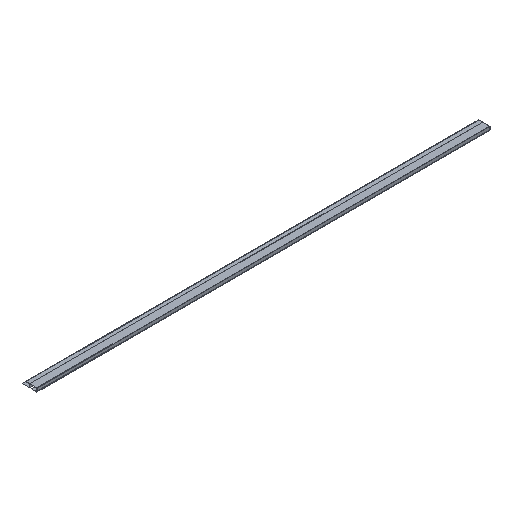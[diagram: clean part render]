
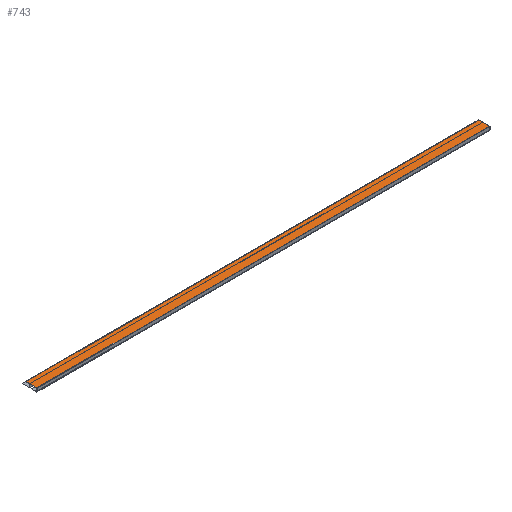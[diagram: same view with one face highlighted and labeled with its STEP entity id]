
A CAD part, isometric view. The second image highlights one B-rep face of the part: STEP entity #743.
In plain terms, the highlighted planar face has unit normal (0, 0, 1) as drawn and (-1, 0, 0) by its records, which use the part's own axes.
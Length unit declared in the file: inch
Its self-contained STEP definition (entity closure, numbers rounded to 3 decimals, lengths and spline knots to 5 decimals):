
#81=FACE_OUTER_BOUND('',#121,.T.);
#121=EDGE_LOOP('',(#545,#546,#547,#548));
#173=LINE('',#1189,#253);
#174=LINE('',#1192,#254);
#175=LINE('',#1194,#255);
#176=LINE('',#1195,#256);
#253=VECTOR('',#962,0.3937);
#254=VECTOR('',#965,0.3937);
#255=VECTOR('',#966,0.3937);
#256=VECTOR('',#967,0.3937);
#329=VERTEX_POINT('',#1185);
#330=VERTEX_POINT('',#1187);
#331=VERTEX_POINT('',#1191);
#332=VERTEX_POINT('',#1193);
#411=EDGE_CURVE('',#329,#330,#173,.T.);
#412=EDGE_CURVE('',#331,#329,#174,.T.);
#413=EDGE_CURVE('',#332,#330,#175,.T.);
#414=EDGE_CURVE('',#331,#332,#176,.T.);
#545=ORIENTED_EDGE('',*,*,#412,.T.);
#546=ORIENTED_EDGE('',*,*,#411,.T.);
#547=ORIENTED_EDGE('',*,*,#413,.F.);
#548=ORIENTED_EDGE('',*,*,#414,.F.);
#714=PLANE('',#844);
#743=ADVANCED_FACE('',(#81),#714,.T.);
#844=AXIS2_PLACEMENT_3D('',#1190,#963,#964);
#962=DIRECTION('',(0.,1.,0.));
#963=DIRECTION('center_axis',(-1.,0.,0.));
#964=DIRECTION('ref_axis',(0.,0.,1.));
#965=DIRECTION('',(0.,0.,1.));
#966=DIRECTION('',(0.,0.,1.));
#967=DIRECTION('',(0.,1.,0.));
#1185=CARTESIAN_POINT('',(-0.0315,0.,2.45033));
#1187=CARTESIAN_POINT('',(-0.0315,120.,2.45033));
#1189=CARTESIAN_POINT('',(-0.0315,0.,2.45033));
#1190=CARTESIAN_POINT('Origin',(-0.0315,0.,-0.44967));
#1191=CARTESIAN_POINT('',(-0.0315,0.,-0.44967));
#1192=CARTESIAN_POINT('',(-0.0315,0.,-0.44967));
#1193=CARTESIAN_POINT('',(-0.0315,120.,-0.44967));
#1194=CARTESIAN_POINT('',(-0.0315,120.,-0.44967));
#1195=CARTESIAN_POINT('',(-0.0315,0.,-0.44967));
